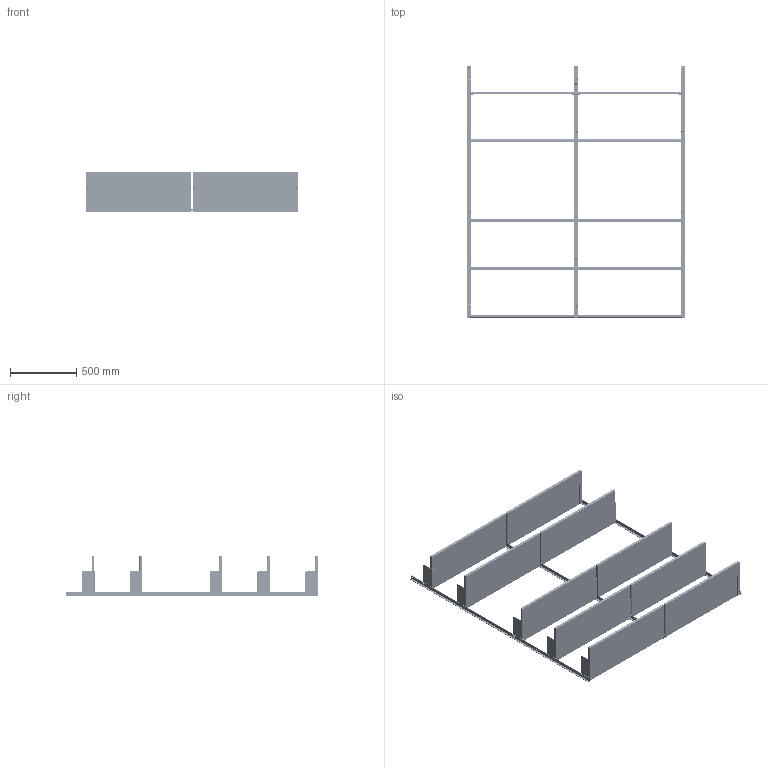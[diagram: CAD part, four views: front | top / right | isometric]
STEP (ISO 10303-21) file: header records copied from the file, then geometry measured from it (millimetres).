
FILE_DESCRIPTION (( 'STEP AP214' ), '1' );
FILE_NAME ('NW Library.STEP', '2022-11-16T12:09:57', ( '' ), ( '' ), 'SwSTEP 2.0', 'SolidWorks 2021', '' );
FILE_SCHEMA (( 'AUTOMOTIVE_DESIGN' ));
Length unit declared in the file: millimetre
Products named in the file (10): DIN 653 M4 12 mm.stp; 419 9006; M3x5x4 Threaded Insert; 419 9030; 419 8002; 419 9005; 419 Florence Wall 1900; 419 9001; DIN 467 M4.stp; NW Library
Assembly tree (20 placements, depth 4):
  NW Library
    419 Florence Wall 1900  x2
      419 9030
      419 8002
        419 9001
        419 9005
        419 9006
        DIN 467 M4.stp  x2
        DIN 653 M4 12 mm.stp  x2
        M3x5x4 Threaded Insert  x4
Bounding box: 1635.2 x 1896 x 303.3 mm (x, y, z)
Volume: 49448654.2 mm3; surface area: 6983936.5 mm2
Topology: 114 solids, 114 shells, 21548 faces, 47300 edges, 26240 vertices
Faces by surface type: plane 8380, cone 7840, cylinder 5008, torus 320
Entity records: 31641 total; most frequent: CARTESIAN_POINT 6776, DIRECTION 5329, ORIENTED_EDGE 5238, EDGE_CURVE 2619, AXIS2_PLACEMENT_3D 2249, VERTEX_POINT 1464, EDGE_LOOP 1249, ADVANCED_FACE 1180
